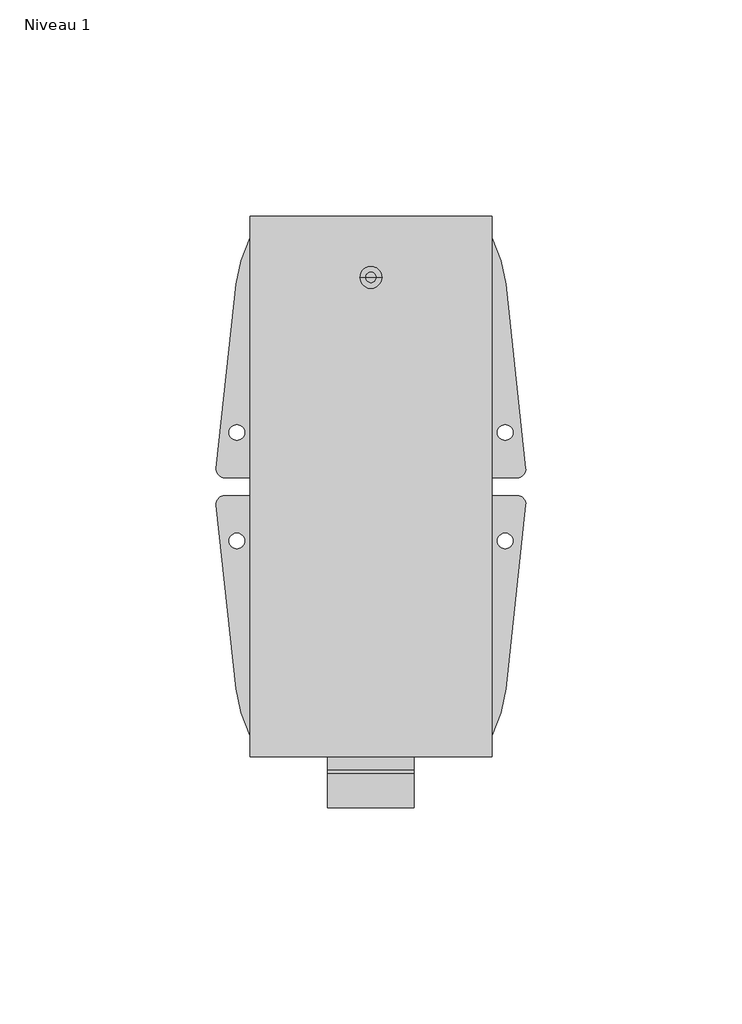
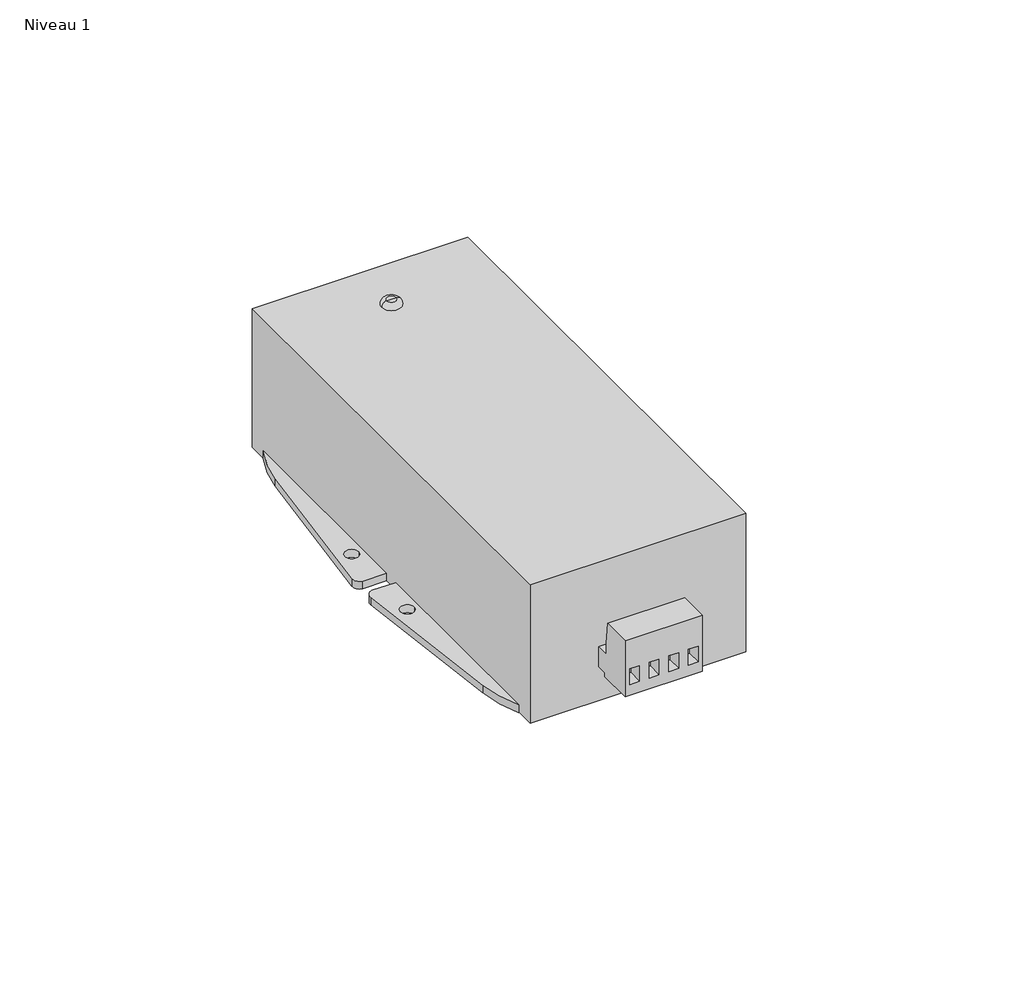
# One storey: 1 proxy.
"""IFC4 building model written with IfcOpenShell, lengths in millimetres."""

import ifcopenshell
import ifcopenshell.guid

model = None  # the IFC model being written
_history = None  # IfcOwnerHistory: only IFC2X3 demands one
_inside = {}  # id of a spatial element -> (the spatial element, [elements in it])
_under = {}  # id of a project, library or spatial element -> (it, [spatial elements below it])
_declared = {}  # id of a project -> (the project, [libraries it declares])
_typed = {}  # id of a type object -> (the type object, [elements of that type])
_made_of = {}  # id of a material, layer set ... -> (it, [elements and type objects made of it])


def new_model(schema):
    """Start an empty IFC model of exactly this schema.

    Asked for "IFC4X3", IfcOpenShell would pick the latest addendum, in which some entities
    have other attributes; the version numbers below select the first issue.
    IFC2X3 requires an IfcOwnerHistory on every rooted entity: one is made here for all.
    """
    global model, _history
    if schema == "IFC4X3":
        model = ifcopenshell.file(schema_version=(4, 3, 0, 0))
    else:
        model = ifcopenshell.file(schema=schema)
    _inside.clear()
    _under.clear()
    _declared.clear()
    _typed.clear()
    _made_of.clear()
    _history = None
    if model.schema == "IFC2X3":
        org = make("IfcOrganization", Name="unknown")
        user = make(
            "IfcPersonAndOrganization",
            ThePerson=make("IfcPerson", FamilyName="unknown"),
            TheOrganization=org,
        )
        app = make(
            "IfcApplication",
            ApplicationDeveloper=org,
            Version="unknown",
            ApplicationFullName="unknown",
            ApplicationIdentifier="unknown",
        )
        _history = make(
            "IfcOwnerHistory",
            OwningUser=user,
            OwningApplication=app,
            ChangeAction="ADDED",
            CreationDate=0,
        )
    return model


def make(cls, **values):
    """One entity of the class cls with the attributes given. An attribute that is None is left unset."""
    return model.create_entity(
        cls, **{name: value for name, value in values.items() if value is not None}
    )


def rooted(cls, **values):
    """An entity with a GlobalId (a new one), such as an element, a storey or a relation."""
    return make(cls, GlobalId=ifcopenshell.guid.new(), OwnerHistory=_history, **values)


def si_unit(unit_type, name, prefix=None):
    """IfcSIUnit, for example si_unit("LENGTHUNIT", "METRE", prefix="MILLI")."""
    return make("IfcSIUnit", UnitType=unit_type, Prefix=prefix, Name=name)


def assignment(units):
    """IfcUnitAssignment: the units of a project."""
    return None if units is None else make("IfcUnitAssignment", Units=units)


def point(xyz):
    """IfcCartesianPoint."""
    return None if xyz is None else make("IfcCartesianPoint", Coordinates=xyz)


def direction(xyz):
    """IfcDirection."""
    return None if xyz is None else make("IfcDirection", DirectionRatios=xyz)


def frame(location, z_axis=None, x_axis=None):
    """IfcAxis2Placement3D, a coordinate frame: its origin and axes. An axis left out is left unset."""
    return make(
        "IfcAxis2Placement3D",
        Location=point(location),
        Axis=direction(z_axis),
        RefDirection=direction(x_axis),
    )


def frame_2d(location, x_axis=None):
    """IfcAxis2Placement2D, a coordinate frame in the plane: its origin and x axis."""
    return make(
        "IfcAxis2Placement2D", Location=point(location), RefDirection=direction(x_axis)
    )


def origin():
    """The frame at (0, 0, 0) with its axes left unset."""
    return frame((0.0, 0.0, 0.0))


def place(relative_to, where):
    """IfcLocalPlacement: puts the frame where relative to a parent placement (None: the world)."""
    return make(
        "IfcLocalPlacement", PlacementRelTo=relative_to, RelativePlacement=where
    )


def context(
    kind, dimensions, precision=None, world=None, true_north=None, identifier=None
):
    """IfcGeometricRepresentationContext, for example the 3D "Model" context."""
    return make(
        "IfcGeometricRepresentationContext",
        ContextIdentifier=identifier,
        ContextType=kind,
        CoordinateSpaceDimension=dimensions,
        Precision=precision,
        WorldCoordinateSystem=world,
        TrueNorth=true_north,
    )


def project(units=None, contexts=None):
    """IfcProject with its units and contexts."""
    return rooted(
        "IfcProject",
        Name="project",
        RepresentationContexts=contexts,
        UnitsInContext=assignment(units),
    )


def spatial(cls, under=None, at=None, **own):
    """A site, building, storey or space (cls), placed at a placement, below another one or the project."""
    s = rooted(cls, ObjectPlacement=at, **own)
    if under is not None:
        _under.setdefault(under.id(), (under, []))[1].append(s)
    return s


def polyline(points):
    """IfcPolyline through the points."""
    return make("IfcPolyline", Points=[point(p) for p in points])


def circle_curve(where, radius):
    """IfcCircle in the frame where."""
    return make("IfcCircle", Position=where, Radius=radius)


def ellipse_curve(where, semi_axis1, semi_axis2):
    """IfcEllipse in the frame where."""
    return make(
        "IfcEllipse", Position=where, SemiAxis1=semi_axis1, SemiAxis2=semi_axis2
    )


def trimmed(basis, trim1, trim2, sense, master):
    """IfcTrimmedCurve: the piece of a basis curve between two trims."""
    return make(
        "IfcTrimmedCurve",
        BasisCurve=basis,
        Trim1=trim1,
        Trim2=trim2,
        SenseAgreement=sense,
        MasterRepresentation=master,
    )


def segment(curve, same_sense, transition):
    """IfcCompositeCurveSegment."""
    return make(
        "IfcCompositeCurveSegment",
        Transition=transition,
        SameSense=same_sense,
        ParentCurve=curve,
    )


def composite_curve(segments, self_intersect=None):
    """IfcCompositeCurve: segments joined end to end."""
    return make("IfcCompositeCurve", Segments=segments, SelfIntersect=self_intersect)


def outline(outer, holes=None, kind="AREA"):
    """IfcArbitraryClosedProfileDef: a profile drawn as a closed curve; with holes, ...WithVoids."""
    if holes is None:
        return make("IfcArbitraryClosedProfileDef", ProfileType=kind, OuterCurve=outer)
    return make(
        "IfcArbitraryProfileDefWithVoids",
        ProfileType=kind,
        OuterCurve=outer,
        InnerCurves=holes,
    )


def extrude(swept, where, along, depth):
    """IfcExtrudedAreaSolid: the profile swept, set in the frame where, extruded along a direction by depth."""
    return make(
        "IfcExtrudedAreaSolid",
        SweptArea=swept,
        Position=where,
        ExtrudedDirection=direction(along),
        Depth=depth,
    )


def faces_of(points, faces, orient=None, outer=None):
    """IfcFace entities. A face is a list of loops; a loop is a list of indices into points, from 0.

    orient and outer hold one flag for each loop. By default every Orientation is true, the
    first loop of a face is its IfcFaceOuterBound and the others are IfcFaceBound.
    """
    made = []
    for i, loops in enumerate(faces):
        bounds = []
        for j, loop in enumerate(loops):
            is_outer = j == 0 if outer is None else outer[i][j]
            bounds.append(
                make(
                    "IfcFaceOuterBound" if is_outer else "IfcFaceBound",
                    Bound=make("IfcPolyLoop", Polygon=[points[k] for k in loop]),
                    Orientation=True if orient is None else orient[i][j],
                )
            )
        made.append(make("IfcFace", Bounds=bounds))
    return made


def faceted_brep(points, faces, orient=None, outer=None, voids=None):
    """IfcFacetedBrep: a solid bounded by flat faces; with voids (closed shells), ...WithVoids."""
    shared = [point(p) for p in points]
    hull = make("IfcClosedShell", CfsFaces=faces_of(shared, faces, orient, outer))
    if voids is None:
        return make("IfcFacetedBrep", Outer=hull)
    return make(
        "IfcFacetedBrepWithVoids",
        Outer=hull,
        Voids=[
            make(cls, CfsFaces=faces_of(shared, fs, o, b)) for cls, fs, o, b in voids
        ],
    )


def shape(context_of_items, identifier, shape_type, items):
    """IfcShapeRepresentation: the items that make up one representation, for example the "Body"."""
    return make(
        "IfcShapeRepresentation",
        ContextOfItems=context_of_items,
        RepresentationIdentifier=identifier,
        RepresentationType=shape_type,
        Items=items,
    )


def source(mapping_origin, context_of_items, identifier, shape_type, items):
    """IfcRepresentationMap: a shape defined once, which mapped items show again and again."""
    return make(
        "IfcRepresentationMap",
        MappingOrigin=mapping_origin,
        MappedRepresentation=shape(context_of_items, identifier, shape_type, items),
    )


def transform(
    local_origin,
    x_axis=None,
    y_axis=None,
    z_axis=None,
    scale=None,
    scale2=None,
    scale3=None,
    uniform=True,
):
    """IfcCartesianTransformationOperator3D, or its non-uniform kind. x_axis, y_axis, z_axis: its Axis1, 2, 3."""
    if uniform:
        return make(
            "IfcCartesianTransformationOperator3D",
            Axis1=direction(x_axis),
            Axis2=direction(y_axis),
            LocalOrigin=point(local_origin),
            Scale=scale,
            Axis3=direction(z_axis),
        )
    return make(
        "IfcCartesianTransformationOperator3DnonUniform",
        Axis1=direction(x_axis),
        Axis2=direction(y_axis),
        LocalOrigin=point(local_origin),
        Scale=scale,
        Axis3=direction(z_axis),
        Scale2=scale2,
        Scale3=scale3,
    )


def mapped(mapping_source, mapping_target):
    """IfcMappedItem: shows the shape of a source again, moved by a transform."""
    return make(
        "IfcMappedItem", MappingSource=mapping_source, MappingTarget=mapping_target
    )


def made_of(thing, what):
    """Note that an element or type object is made of a material, layer set ...; save() writes the relation."""
    if what is not None:
        _made_of.setdefault(what.id(), (what, []))[1].append(thing)
    return thing


def element(
    cls,
    number,
    at=None,
    inside=None,
    cuts=None,
    type_object=None,
    material=None,
    context=None,
    identifier="Body",
    shape_type=None,
    held_by="IfcProductDefinitionShape",
    body=None,
    shapes=None,
    **own,
):
    """One element of the class cls, such as IfcWall. Its Tag is "e" and its number.

    at: its placement. inside: the storey or other place that contains it. cuts: it is an
    opening in that element (IfcRelVoidsElement). A single representation is given by context,
    identifier, shape_type and body (its items); several are given by shapes. held_by: the class
    of the entity that holds the representations. save() writes the other relations.
    """
    e = rooted(cls, Tag="e%d" % number, ObjectPlacement=at, **own)
    if body is not None:
        shapes = [shape(context, identifier, shape_type, body)]
    if shapes is not None:
        e.Representation = make(held_by, Representations=shapes)
    if inside is not None:
        _inside.setdefault(inside.id(), (inside, []))[1].append(e)
    if cuts is not None:
        rooted(
            "IfcRelVoidsElement", RelatingBuildingElement=cuts, RelatedOpeningElement=e
        )
    if type_object is not None:
        _typed.setdefault(type_object.id(), (type_object, []))[1].append(e)
    return made_of(e, material)


def aggregate(whole, parts):
    """IfcRelAggregates: a whole, such as a stair, and the parts it consists of."""
    return rooted("IfcRelAggregates", RelatingObject=whole, RelatedObjects=parts)


def save(model, path):
    """Write the relations noted so far, then the file.

    IfcRelAggregates (storeys below a building ...), IfcRelContainedInSpatialStructure (elements
    in a storey), IfcRelDefinesByType, IfcRelAssociatesMaterial and IfcRelDeclares: one each for
    every whole, place, type object, material and project.
    """
    for whole, parts in _under.values():
        aggregate(whole, parts)
    for where, things in _inside.values():
        rooted(
            "IfcRelContainedInSpatialStructure",
            RelatedElements=things,
            RelatingStructure=where,
        )
    for kind, things in _typed.values():
        rooted("IfcRelDefinesByType", RelatedObjects=things, RelatingType=kind)
    for what, things in _made_of.values():
        rooted("IfcRelAssociatesMaterial", RelatedObjects=things, RelatingMaterial=what)
    for by, libraries in _declared.values():
        rooted("IfcRelDeclares", RelatingContext=by, RelatedDefinitions=libraries)
    model.write(path)


def plane_surface(at):
    """IfcPlane: the flat surface through the origin of the frame at, square to its z axis."""
    return make("IfcPlane", Position=at)


def revolved_surface(curve, axis_point, axis_direction):
    """IfcSurfaceOfRevolution: the curve turned about the line through axis_point along axis_direction."""
    return make(
        "IfcSurfaceOfRevolution",
        SweptCurve=make("IfcArbitraryOpenProfileDef", ProfileType="CURVE", Curve=curve),
        AxisPosition=make("IfcAxis1Placement", Location=point(axis_point), Axis=direction(axis_direction)),
    )


def advanced_brep(points, edges, surfaces, faces):
    """IfcAdvancedBrep: a solid bounded by faces that lie on surfaces and meet in shared edges.

    An edge is (start, end): straight between two places in points (the first is 0);
    or (start, end, curve); or (start, end, curve, False) where it runs against its curve.
    A face is (place in surfaces, loops), or (place, loops, False) where it looks against
    its surface's normal. A loop lists edges by number (the first is 1), with a minus sign
    where the edge is run from its end to its start. The first loop is the outer one.
    """
    corners = [point(p) for p in points]
    vertices = [make("IfcVertexPoint", VertexGeometry=c) for c in corners]
    made = []
    for start, end, *more in edges:
        made.append(
            make(
                "IfcEdgeCurve",
                EdgeStart=vertices[start],
                EdgeEnd=vertices[end],
                EdgeGeometry=more[0] if more else make("IfcPolyline", Points=[corners[start], corners[end]]),
                SameSense=more[1] if len(more) > 1 else True,
            )
        )
    hull = []
    for where, loops, *sense in faces:
        bounds = []
        for j, loop in enumerate(loops):
            ring = [make("IfcOrientedEdge", EdgeElement=made[abs(k) - 1], Orientation=k > 0) for k in loop]
            bounds.append(
                make(
                    "IfcFaceOuterBound" if j == 0 else "IfcFaceBound",
                    Bound=make("IfcEdgeLoop", EdgeList=ring),
                    Orientation=True,
                )
            )
        hull.append(make("IfcAdvancedFace", Bounds=bounds, FaceSurface=surfaces[where], SameSense=sense[0] if sense else True))
    return make("IfcAdvancedBrep", Outer=make("IfcClosedShell", CfsFaces=hull))


def electrical_equipment_0b683ebe(model_context):
    return source(origin(), model_context, "Body", "SolidModel", [
        faceted_brep([(9.9958258, -59.123132, -11.75), (9.9958258, -59.123132, -10.7582097), (9.9958258, -50.3233605, -10.7582097), (9.9958258, -50.3233605, -5.25), (9.9958258, -59.7233605, -5.25), (9.9958258, -59.7233605, -2.25), (9.9958258, -60.3214939, 3.6814903), (9.9958258, -68.3233605, 3.6814903), (9.9958258, -68.3233605, -11.75), (-10.0041742, -59.123132, -11.75), (-10.0041742, -68.3233605, -11.75), (-10.0041742, -68.3233605, 3.6814903), (-10.0041742, -60.3214939, 3.6814903), (-10.0041742, -59.7233605, -2.25), (-10.0041742, -59.7233605, -5.25), (-10.0041742, -50.3233605, -5.25), (-10.0041742, -50.3233605, -10.7582097), (-10.0041742, -59.123132, -10.7582097), (6.3458258, -68.3233605, -8.75), (6.3458258, -68.3233605, -4.45), (8.8858258, -68.3233605, -4.45), (8.8858258, -68.3233605, -8.75), (1.2658258, -68.3233605, -8.75), (1.2658258, -68.3233605, -4.45), (3.8058258, -68.3233605, -4.45), (3.8058258, -68.3233605, -8.75), (-3.8141742, -68.3233605, -8.75), (-3.8141742, -68.3233605, -4.45), (-1.2741742, -68.3233605, -4.45), (-1.2741742, -68.3233605, -8.75), (-8.8941742, -68.3233605, -8.75), (-8.8941742, -68.3233605, -4.45), (-6.3541742, -68.3233605, -4.45), (-6.3541742, -68.3233605, -8.75), (6.3458258, -64.3233605, -4.45), (6.3458258, -64.3233605, -8.75), (8.8858258, -64.3233605, -8.75), (8.8858258, -64.3233605, -4.45), (1.2658258, -64.3233605, -4.45), (1.2658258, -64.3233605, -8.75), (3.8058258, -64.3233605, -8.75), (3.8058258, -64.3233605, -4.45), (-3.8141742, -64.3233605, -4.45), (-3.8141742, -64.3233605, -8.75), (-1.2741742, -64.3233605, -8.75), (-1.2741742, -64.3233605, -4.45), (-8.8941742, -64.3233605, -4.45), (-8.8941742, -64.3233605, -8.75), (-6.3541742, -64.3233605, -8.75), (-6.3541742, -64.3233605, -4.45)], [[[0, 1, 2, 3, 4, 5, 6, 7, 8]], [[9, 10, 11, 12, 13, 14, 15, 16, 17]], [[1, 0, 9, 17]], [[2, 1, 17, 16]], [[3, 2, 16, 15]], [[4, 3, 15, 14]], [[5, 4, 14, 13]], [[6, 5, 13, 12]], [[7, 6, 12, 11]], [[8, 7, 11, 10], [18, 19, 20, 21], [22, 23, 24, 25], [26, 27, 28, 29], [30, 31, 32, 33]], [[0, 8, 10, 9]], [[34, 35, 36, 37]], [[38, 39, 40, 41]], [[42, 43, 44, 45]], [[46, 47, 48, 49]], [[35, 34, 19, 18]], [[36, 35, 18, 21]], [[37, 36, 21, 20]], [[34, 37, 20, 19]], [[39, 38, 23, 22]], [[40, 39, 22, 25]], [[41, 40, 25, 24]], [[38, 41, 24, 23]], [[43, 42, 27, 26]], [[44, 43, 26, 29]], [[45, 44, 29, 28]], [[42, 45, 28, 27]], [[47, 46, 31, 30]], [[48, 47, 30, 33]], [[49, 48, 33, 32]], [[46, 49, 32, 31]]]),
        advanced_brep(
        [(1.1895939, 54.2227327, 19.65), (-1.2012213, 54.2227327, 19.65), (-0.0058137, 54.2227327, 19.65), (2.4967842, 54.2227327, 18.25), (-2.5084116, 54.2227327, 18.25), (-0.0058137, 54.2227327, 18.25)],
        [
            (0, 1, circle_curve(frame((-0.0058137, 54.2227327, 19.65), z_axis=(0.0, 0.0, 1.0), x_axis=(-1.0, 0.0, 0.0)), 1.1954076)),
            (1, 2),
            (2, 0),
            (1, 0, circle_curve(frame((-0.0058137, 54.2227327, 19.65), z_axis=(0.0, 0.0, 1.0), x_axis=(-1.0, 0.0, 0.0)), 1.1954076)),
            (3, 4, circle_curve(frame((-0.0058137, 54.2227327, 18.25), z_axis=(0.0, 0.0, 1.0), x_axis=(-1.0, 0.0, 0.0)), 2.5025979)),
            (4, 1, circle_curve(frame((-1.3161818, 54.2227327, 18.4470729), z_axis=(0.0, 1.0, 0.0), x_axis=(-1.0, 0.0, 0.0)), 1.2084078)),
            (0, 3, circle_curve(frame((1.3045544, 54.2227327, 18.4470729), z_axis=(0.0, 1.0, 0.0), x_axis=(1.0, 0.0, 0.0)), 1.2084078)),
            (4, 3, circle_curve(frame((-0.0058137, 54.2227327, 18.25), z_axis=(0.0, 0.0, 1.0), x_axis=(-1.0, 0.0, 0.0)), 2.5025979)),
            (5, 4),
            (3, 5),
        ],
        [
            plane_surface(frame((-0.0058137, 54.2227327, 19.65), z_axis=(0.0, 0.0, 1.0), x_axis=(-1.0, 0.0, 0.0))),
            revolved_surface(trimmed(ellipse_curve(frame((-1.3161818, 54.2227327, 18.4470729), z_axis=(0.0, -1.0, 0.0), x_axis=(-1.0, 0.0, 0.0)), 1.2084078, 1.2084078), [point((-1.2012213, 54.2227327, 19.65))], [point((-2.5084116, 54.2227327, 18.25))], True, "CARTESIAN"), (-0.0058137, 54.2227327, 19.65), (0.0, 0.0, -1.0)),
            plane_surface(frame((-0.0058137, 54.2227327, 18.25), z_axis=(0.0, 0.0, -1.0), x_axis=(-1.0, 0.0, 0.0))),
        ],
        [
            (0, [[1, 2, 3]]),
            (0, [[4, -3, -2]]),
            (1, [[5, 6, -1, 7]]),
            (1, [[8, -7, -4, -6]]),
            (2, [[9, -5, 10]]),
            (2, [[-10, -8, -9]]),
        ],
    ),
        extrude(outline(composite_curve([segment(polyline([(-28.0058137, 63.35), (-28.0058137, 7.95), (-34.200573, 7.95)]), True, "CONTINUOUS"), segment(trimmed(circle_curve(frame_2d((-33.8246385, 9.8748697)), 1.9612368), [point((-34.200573, 7.95))], [point((-35.7744733, 10.0860431))], False, "CARTESIAN"), True, "CONTINUOUS"), segment(polyline([(-35.7744733, 10.0860431), (-31.1703717, 52.5972478)]), True, "CONTINUOUS"), segment(trimmed(circle_curve(frame_2d((0.2386553, 49.1955481)), 31.5926975), [point((-31.1703717, 52.5972478))], [point((-28.0058137, 63.35))], False, "CARTESIAN"), True, "CONTINUOUS")], self_intersect=False), holes=[composite_curve([segment(trimmed(circle_curve(frame_2d((-31.0217888, 18.3643761)), 1.8), [point((-32.8217888, 18.3643761))], [point((-29.2217888, 18.3643761))], True, "CARTESIAN"), True, "CONTINUOUS"), segment(trimmed(circle_curve(frame_2d((-31.0217888, 18.3643761)), 1.8), [point((-29.2217888, 18.3643761))], [point((-32.8217888, 18.3643761))], True, "CARTESIAN"), True, "CONTINUOUS")], self_intersect=False)]), frame((0.0, 0.0, -19.85), z_axis=(0.0, 0.0, 1.0), x_axis=(1.0, 0.0, 0.0)), (0.0, 0.0, 1.0), 2.1),
        extrude(outline(composite_curve([segment(trimmed(circle_curve(frame_2d((-0.2386553, 49.1955481)), 31.5926975), [point((28.0058137, 63.35))], [point((31.1703717, 52.5972478))], False, "CARTESIAN"), True, "CONTINUOUS"), segment(polyline([(31.1703717, 52.5972478), (35.7744733, 10.0860431)]), True, "CONTINUOUS"), segment(trimmed(circle_curve(frame_2d((33.8246385, 9.8748697)), 1.9612368), [point((35.7744733, 10.0860431))], [point((34.200573, 7.95))], False, "CARTESIAN"), True, "CONTINUOUS"), segment(polyline([(34.200573, 7.95), (28.0058137, 7.95), (28.0058137, 63.35)]), True, "CONTINUOUS")], self_intersect=False), holes=[composite_curve([segment(trimmed(circle_curve(frame_2d((31.0217888, 18.3643761)), 1.8), [point((32.8217888, 18.3643761))], [point((29.2217888, 18.3643761))], True, "CARTESIAN"), True, "CONTINUOUS"), segment(trimmed(circle_curve(frame_2d((31.0217888, 18.3643761)), 1.8), [point((29.2217888, 18.3643761))], [point((32.8217888, 18.3643761))], True, "CARTESIAN"), True, "CONTINUOUS")], self_intersect=False)]), frame((0.0, 0.0, -19.85), z_axis=(0.0, 0.0, 1.0), x_axis=(1.0, 0.0, 0.0)), (0.0, 0.0, 1.0), 2.1),
        extrude(outline(composite_curve([segment(trimmed(circle_curve(frame_2d((0.2386553, -37.4955481)), 31.5926975), [point((-28.0058137, -51.65))], [point((-31.1703717, -40.8972478))], False, "CARTESIAN"), True, "CONTINUOUS"), segment(polyline([(-31.1703717, -40.8972478), (-35.7744733, 1.6139569)]), True, "CONTINUOUS"), segment(trimmed(circle_curve(frame_2d((-33.8246385, 1.8251303)), 1.9612368), [point((-35.7744733, 1.6139569))], [point((-34.200573, 3.75))], False, "CARTESIAN"), True, "CONTINUOUS"), segment(polyline([(-34.200573, 3.75), (-28.0058137, 3.75), (-28.0058137, -51.65)]), True, "CONTINUOUS")], self_intersect=False), holes=[composite_curve([segment(trimmed(circle_curve(frame_2d((-31.0217888, -6.6643761)), 1.8), [point((-32.8217888, -6.6643761))], [point((-29.2217888, -6.6643761))], True, "CARTESIAN"), True, "CONTINUOUS"), segment(trimmed(circle_curve(frame_2d((-31.0217888, -6.6643761)), 1.8), [point((-29.2217888, -6.6643761))], [point((-32.8217888, -6.6643761))], True, "CARTESIAN"), True, "CONTINUOUS")], self_intersect=False)]), frame((0.0, 0.0, -19.85), z_axis=(0.0, 0.0, 1.0), x_axis=(1.0, 0.0, 0.0)), (0.0, 0.0, 1.0), 2.1),
        extrude(outline(composite_curve([segment(polyline([(28.0058137, -51.65), (28.0058137, 3.75), (34.200573, 3.75)]), True, "CONTINUOUS"), segment(trimmed(circle_curve(frame_2d((33.8246385, 1.8251303)), 1.9612368), [point((34.200573, 3.75))], [point((35.7744733, 1.6139569))], False, "CARTESIAN"), True, "CONTINUOUS"), segment(polyline([(35.7744733, 1.6139569), (31.1703717, -40.8972478)]), True, "CONTINUOUS"), segment(trimmed(circle_curve(frame_2d((-0.2386553, -37.4955481)), 31.5926975), [point((31.1703717, -40.8972478))], [point((28.0058137, -51.65))], False, "CARTESIAN"), True, "CONTINUOUS")], self_intersect=False), holes=[composite_curve([segment(trimmed(circle_curve(frame_2d((31.0217888, -6.6643761)), 1.8), [point((32.8217888, -6.6643761))], [point((29.2217888, -6.6643761))], True, "CARTESIAN"), True, "CONTINUOUS"), segment(trimmed(circle_curve(frame_2d((31.0217888, -6.6643761)), 1.8), [point((29.2217888, -6.6643761))], [point((32.8217888, -6.6643761))], True, "CARTESIAN"), True, "CONTINUOUS")], self_intersect=False)]), frame((0.0, 0.0, -19.85), z_axis=(0.0, 0.0, 1.0), x_axis=(1.0, 0.0, 0.0)), (0.0, 0.0, 1.0), 2.1),
        extrude(outline(polyline([(27.9941863, 68.3233605), (27.9941863, -56.6233605), (-28.0058137, -56.6233605), (-28.0058137, 68.3233605), (27.9941863, 68.3233605)])), frame((0.0, 0.0, -19.75), z_axis=(0.0, 0.0, 1.0), x_axis=(1.0, 0.0, 0.0)), (0.0, 0.0, 1.0), 38.0),
    ])


model = new_model("IFC4")

# Units and contexts
model_context = context("Model", 3, world=origin())
ifc_project = project(units=[si_unit("LENGTHUNIT", "METRE", prefix="MILLI")], contexts=[model_context])

# Site, building, storey
site = spatial("IfcSite", under=ifc_project)
building = spatial("IfcBuilding", under=site)
storey = spatial("IfcBuildingStorey", under=building, Name="Niveau 1", Elevation=0.0)

# Proxy
placement = place(None, origin())
electrical_equipment_shape = electrical_equipment_0b683ebe(model_context)
element("IfcBuildingElementProxy", 1, Name="A KIT HPOE 60W-MT-20 : A KIT HPOE 60W-MT-20", ObjectType="A KIT HPOE 60W-MT-20 : A KIT HPOE 60W-MT-20", at=placement, inside=storey, context=model_context, shape_type="MappedRepresentation", body=[
    mapped(electrical_equipment_shape, transform((-7529.7597686, 5673.4578583, 0.0), x_axis=(1.0, 0.0, 0.0), y_axis=(0.0, 1.0, 0.0), z_axis=(0.0, 0.0, 1.0))),
])

save(model, "model.ifc")
